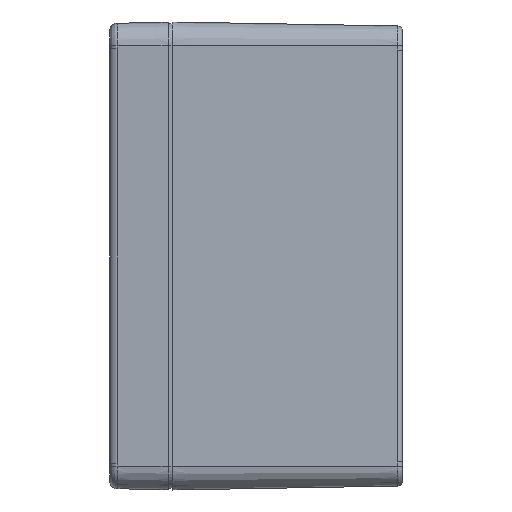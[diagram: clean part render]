
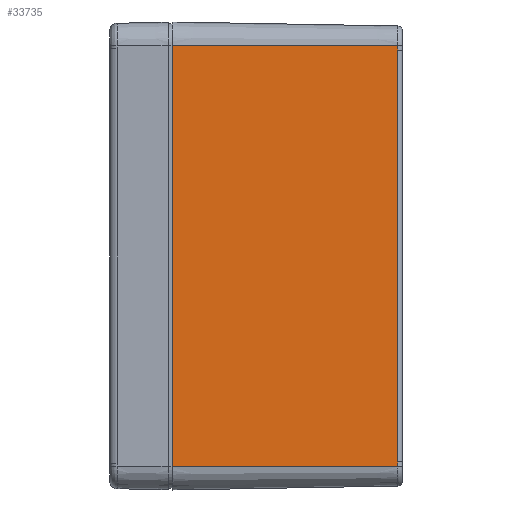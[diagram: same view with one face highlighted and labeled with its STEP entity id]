
A CAD part, left-side view. The second image highlights one B-rep face of the part: STEP entity #33735.
In plain terms, the highlighted planar face has unit normal (-1, -0.018, 0).
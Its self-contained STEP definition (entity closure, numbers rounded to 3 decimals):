
#377 = CARTESIAN_POINT ( 'NONE',  ( -98.972, -58.884, 54.05 ) ) ;
#838 = VERTEX_POINT ( 'NONE', #1021 ) ;
#1021 = CARTESIAN_POINT ( 'NONE',  ( -98.972, -58.884, -54.05 ) ) ;
#2263 = CARTESIAN_POINT ( 'NONE',  ( -100., 0., -54.05 ) ) ;
#2492 = EDGE_CURVE ( 'NONE', #34932, #7796, #34141, .T. ) ;
#2756 = VECTOR ( 'NONE', #12906, 1000. ) ;
#3405 = DIRECTION ( 'NONE',  ( -1., -0.017, 0. ) ) ;
#5932 = B_SPLINE_CURVE_WITH_KNOTS ( 'NONE', 3,
 ( #20015, #35105, #10689, #25783 ),
 .UNSPECIFIED., .F., .F.,
 ( 4, 4 ),
 ( 0., 0.001 ),
 .UNSPECIFIED. ) ;
#6944 = VECTOR ( 'NONE', #15343, 1000. ) ;
#7796 = VERTEX_POINT ( 'NONE', #8851 ) ;
#7994 = CARTESIAN_POINT ( 'NONE',  ( -98.972, -58.872, 52.837 ) ) ;
#8724 = CARTESIAN_POINT ( 'NONE',  ( -100., 0., 54.05 ) ) ;
#8851 = CARTESIAN_POINT ( 'NONE',  ( -98.972, -58.872, 52.837 ) ) ;
#10689 = CARTESIAN_POINT ( 'NONE',  ( -98.972, -58.872, -53.241 ) ) ;
#12033 = ORIENTED_EDGE ( 'NONE', *, *, #44077, .F. ) ;
#12906 = DIRECTION ( 'NONE',  ( -0.017, 1., 0. ) ) ;
#13317 = ORIENTED_EDGE ( 'NONE', *, *, #2492, .T. ) ;
#14259 = VERTEX_POINT ( 'NONE', #42230 ) ;
#15343 = DIRECTION ( 'NONE',  ( 0., 0., 1. ) ) ;
#16569 = EDGE_CURVE ( 'NONE', #838, #34932, #5932, .T. ) ;
#17397 = EDGE_CURVE ( 'NONE', #45728, #14259, #38942, .T. ) ;
#18273 = CARTESIAN_POINT ( 'NONE',  ( -100., 0., 54.05 ) ) ;
#19216 = VECTOR ( 'NONE', #20870, 1000. ) ;
#20015 = CARTESIAN_POINT ( 'NONE',  ( -98.972, -58.884, -54.05 ) ) ;
#20111 = CARTESIAN_POINT ( 'NONE',  ( -98.972, -58.885, 53.646 ) ) ;
#20846 = ORIENTED_EDGE ( 'NONE', *, *, #16569, .T. ) ;
#20870 = DIRECTION ( 'NONE',  ( 0., 0., -1. ) ) ;
#22872 = AXIS2_PLACEMENT_3D ( 'NONE', #18273, #3405, #26407 ) ;
#23080 = CARTESIAN_POINT ( 'NONE',  ( -98.972, -58.872, 53.241 ) ) ;
#23810 = LINE ( 'NONE', #8724, #29663 ) ;
#25783 = CARTESIAN_POINT ( 'NONE',  ( -98.972, -58.872, -52.837 ) ) ;
#26407 = DIRECTION ( 'NONE',  ( 0.017, -1., 0. ) ) ;
#28056 = CARTESIAN_POINT ( 'NONE',  ( -99.983, -1., 54.05 ) ) ;
#29663 = VECTOR ( 'NONE', #30779, 1000. ) ;
#29894 = EDGE_LOOP ( 'NONE', ( #40696, #30961, #12033, #20846, #13317, #32095 ) ) ;
#30655 = CARTESIAN_POINT ( 'NONE',  ( -99.983, -1., 54.05 ) ) ;
#30779 = DIRECTION ( 'NONE',  ( -0.017, 1., 0. ) ) ;
#30961 = ORIENTED_EDGE ( 'NONE', *, *, #17397, .T. ) ;
#31831 = B_SPLINE_CURVE_WITH_KNOTS ( 'NONE', 3,
 ( #7994, #23080, #20111, #38187 ),
 .UNSPECIFIED., .F., .F.,
 ( 4, 4 ),
 ( 0., 0.001 ),
 .UNSPECIFIED. ) ;
#32095 = ORIENTED_EDGE ( 'NONE', *, *, #40414, .T. ) ;
#33354 = FACE_OUTER_BOUND ( 'NONE', #29894, .T. ) ;
#33422 = CARTESIAN_POINT ( 'NONE',  ( -98.972, -58.872, -52.837 ) ) ;
#33735 = ADVANCED_FACE ( 'NONE', ( #33354 ), #48953, .T. ) ;
#34141 = LINE ( 'NONE', #37629, #6944 ) ;
#34273 = VERTEX_POINT ( 'NONE', #377 ) ;
#34932 = VERTEX_POINT ( 'NONE', #33422 ) ;
#35105 = CARTESIAN_POINT ( 'NONE',  ( -98.972, -58.885, -53.646 ) ) ;
#37629 = CARTESIAN_POINT ( 'NONE',  ( -98.972, -58.872, 54.05 ) ) ;
#38187 = CARTESIAN_POINT ( 'NONE',  ( -98.972, -58.884, 54.05 ) ) ;
#38901 = LINE ( 'NONE', #2263, #2756 ) ;
#38942 = LINE ( 'NONE', #28056, #19216 ) ;
#40343 = EDGE_CURVE ( 'NONE', #34273, #45728, #23810, .T. ) ;
#40414 = EDGE_CURVE ( 'NONE', #7796, #34273, #31831, .T. ) ;
#40696 = ORIENTED_EDGE ( 'NONE', *, *, #40343, .T. ) ;
#42230 = CARTESIAN_POINT ( 'NONE',  ( -99.983, -1., -54.05 ) ) ;
#44077 = EDGE_CURVE ( 'NONE', #838, #14259, #38901, .T. ) ;
#45728 = VERTEX_POINT ( 'NONE', #30655 ) ;
#48953 = PLANE ( 'NONE',  #22872 ) ;
